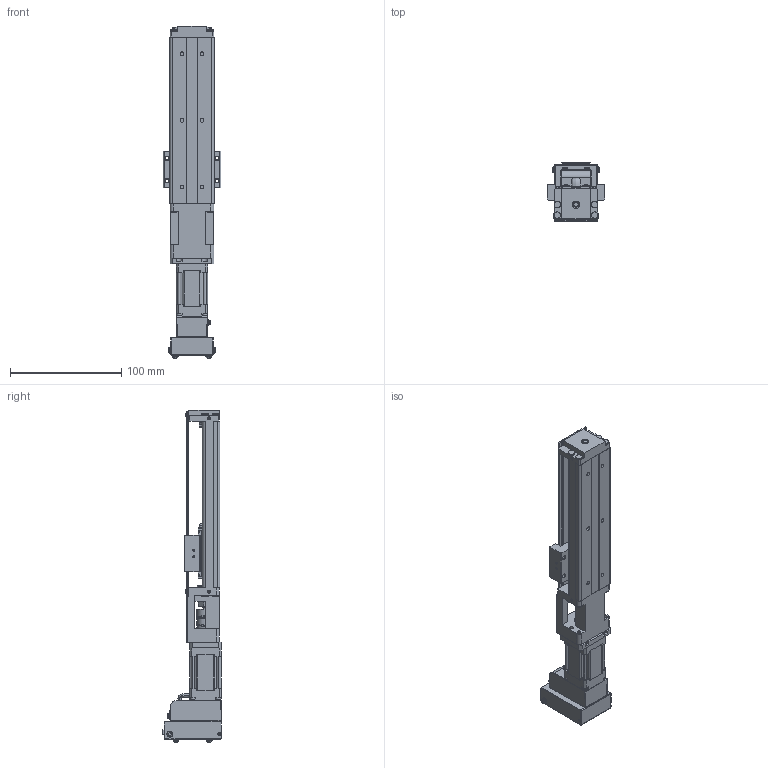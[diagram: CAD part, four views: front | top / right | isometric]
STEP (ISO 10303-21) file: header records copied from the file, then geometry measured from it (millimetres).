
FILE_DESCRIPTION (( 'STEP AP214' ), '1' );
FILE_NAME ('SPA20-A-01-080-S-10A0-11L30.STEP', '2015-01-06T17:50:36', ( '' ), ( '' ), 'SwSTEP 2.0', 'SolidWorks 2015', '' );
FILE_SCHEMA (( 'AUTOMOTIVE_DESIGN' ));
Length unit declared in the file: millimetre
Products named in the file (5): RCLA16C-5-5; SPA20-A-01-080-S-10A0; PA20-CM1-11-BRK; CM1-X-11L30_CM1-X-11L30; SPA20-A-01-080-S-10A0-11L30
Assembly tree (4 placements, depth 2):
  SPA20-A-01-080-S-10A0-11L30
    CM1-X-11L30_CM1-X-11L30
    PA20-CM1-11-BRK
    SPA20-A-01-080-S-10A0
    RCLA16C-5-5
Bounding box: 52 x 52.3 x 298.9 mm (x, y, z)
Volume: 200689 mm3; surface area: 105499.3 mm2
Topology: 34 solids, 40 shells, 2033 faces, 5319 edges, 3420 vertices
Faces by surface type: plane 1240, cylinder 620, cone 115, torus 38, bspline 18, sphere 2
Entity records: 77106 total; most frequent: CARTESIAN_POINT 12395, DIRECTION 10659, ORIENTED_EDGE 10484, EDGE_CURVE 5281, LINE 3659, VECTOR 3659, AXIS2_PLACEMENT_3D 3500, VERTEX_POINT 3420
